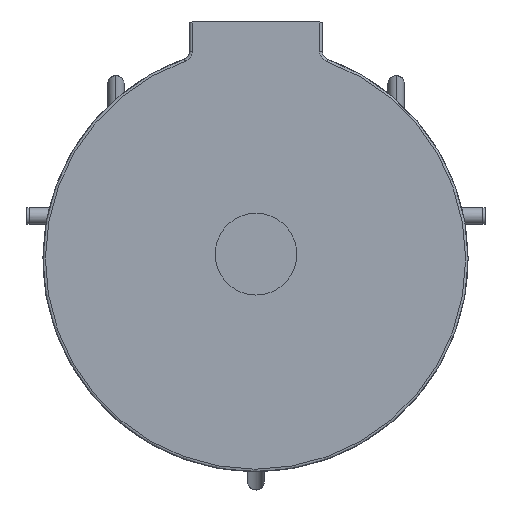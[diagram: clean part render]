
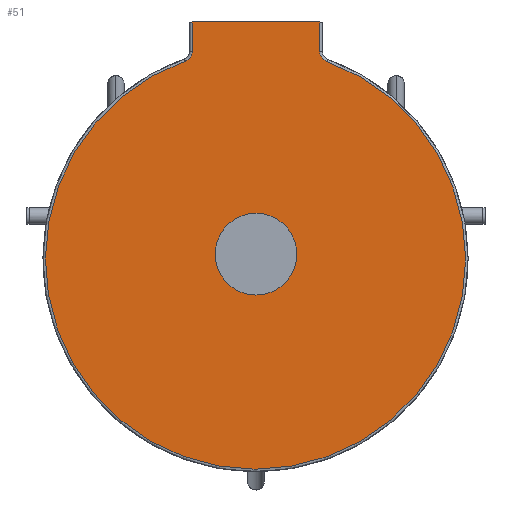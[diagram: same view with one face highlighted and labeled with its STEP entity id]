
A CAD part, top view. The second image highlights one B-rep face of the part: STEP entity #51.
In plain terms, the highlighted planar face has unit normal (0, 0, 1).
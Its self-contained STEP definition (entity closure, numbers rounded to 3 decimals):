
#41=FACE_BOUND('',#235,.T.);
#51=ADVANCED_FACE('',(#142,#41),#1388,.T.);
#142=FACE_OUTER_BOUND('',#234,.T.);
#234=EDGE_LOOP('',(#355,#356,#357,#358,#359,#360));
#235=EDGE_LOOP('',(#361,#362));
#355=ORIENTED_EDGE('',*,*,#740,.T.);
#356=ORIENTED_EDGE('',*,*,#746,.T.);
#357=ORIENTED_EDGE('',*,*,#732,.T.);
#358=ORIENTED_EDGE('',*,*,#762,.T.);
#359=ORIENTED_EDGE('',*,*,#753,.T.);
#360=ORIENTED_EDGE('',*,*,#759,.T.);
#361=ORIENTED_EDGE('',*,*,#757,.T.);
#362=ORIENTED_EDGE('',*,*,#767,.T.);
#732=EDGE_CURVE('',#1245,#1247,#994,.T.);
#740=EDGE_CURVE('',#1251,#1249,#996,.T.);
#746=EDGE_CURVE('',#1249,#1245,#1002,.T.);
#753=EDGE_CURVE('',#1241,#1240,#1106,.T.);
#757=EDGE_CURVE('',#1243,#1252,#1110,.T.);
#759=EDGE_CURVE('',#1240,#1251,#1111,.T.);
#762=EDGE_CURVE('',#1247,#1241,#1114,.T.);
#767=EDGE_CURVE('',#1252,#1243,#1118,.T.);
#994=B_SPLINE_CURVE_WITH_KNOTS('',1,(#1988,#1989),.UNSPECIFIED.,.F.,.F.,
(2,2),(0.,35.587),.UNSPECIFIED.);
#996=B_SPLINE_CURVE_WITH_KNOTS('',1,(#2007,#2008),.UNSPECIFIED.,.F.,.F.,
(2,2),(0.,36.01),.UNSPECIFIED.);
#1002=B_SPLINE_CURVE_WITH_KNOTS('',1,(#2019,#2020),.UNSPECIFIED.,.F.,.F.,
(2,2),(1666.469,1822.469),.UNSPECIFIED.);
#1106=TRIMMED_CURVE($,#1173,(#2038),(#2039),.T.,.CARTESIAN.);
#1110=TRIMMED_CURVE($,#1177,(#2050),(#2051),.T.,.CARTESIAN.);
#1111=TRIMMED_CURVE($,#1178,(#2055),(#2056),.T.,.CARTESIAN.);
#1114=TRIMMED_CURVE($,#1181,(#2064),(#2065),.T.,.CARTESIAN.);
#1118=TRIMMED_CURVE($,#1185,(#2078),(#2079),.T.,.CARTESIAN.);
#1173=CIRCLE('',#1568,257.);
#1177=CIRCLE('',#1572,50.);
#1178=CIRCLE('',#1573,13.);
#1181=CIRCLE('',#1576,13.);
#1185=CIRCLE('',#1580,50.);
#1240=VERTEX_POINT('',#1971);
#1241=VERTEX_POINT('',#1972);
#1243=VERTEX_POINT('',#1974);
#1245=VERTEX_POINT('',#1976);
#1247=VERTEX_POINT('',#1978);
#1249=VERTEX_POINT('',#1980);
#1251=VERTEX_POINT('',#1982);
#1252=VERTEX_POINT('',#1983);
#1388=PLANE('',#1553);
#1553=AXIS2_PLACEMENT_3D('',#1911,#1698,$);
#1568=AXIS2_PLACEMENT_3D($,#2037,#1721,#1722);
#1572=AXIS2_PLACEMENT_3D($,#2049,#1729,#1730);
#1573=AXIS2_PLACEMENT_3D($,#2054,#1731,#1732);
#1576=AXIS2_PLACEMENT_3D($,#2063,#1737,#1738);
#1580=AXIS2_PLACEMENT_3D($,#2077,#1745,#1746);
#1698=DIRECTION('',(0.,0.,1.));
#1721=DIRECTION('',(0.,0.,1.));
#1722=DIRECTION('',(-0.335,0.942,0.));
#1729=DIRECTION('',(0.,0.,-1.));
#1730=DIRECTION('',(1.,0.,0.));
#1731=DIRECTION('',(0.,0.,-1.));
#1732=DIRECTION('',(-0.339,-0.941,0.));
#1737=DIRECTION('',(0.,0.,-1.));
#1738=DIRECTION('',(1.,0.,0.));
#1745=DIRECTION('',(0.,0.,-1.));
#1746=DIRECTION('',(-1.,0.,0.));
#1911=CARTESIAN_POINT('',(-158.961,-426.514,751.772));
#1971=CARTESIAN_POINT('',(253.22,143.997,751.772));
#1972=CARTESIAN_POINT('',(79.983,144.4,751.772));
#1974=CARTESIAN_POINT('',(216.63,-91.707,751.772));
#1976=CARTESIAN_POINT('',(88.63,192.236,751.772));
#1978=CARTESIAN_POINT('',(88.63,156.649,751.772));
#1980=CARTESIAN_POINT('',(244.63,192.236,751.772));
#1982=CARTESIAN_POINT('',(244.63,156.226,751.772));
#1983=CARTESIAN_POINT('',(116.63,-91.707,751.772));
#1988=CARTESIAN_POINT('',(88.63,192.236,751.772));
#1989=CARTESIAN_POINT('',(88.63,156.649,751.772));
#2007=CARTESIAN_POINT('',(244.63,156.226,751.772));
#2008=CARTESIAN_POINT('',(244.63,192.236,751.772));
#2019=CARTESIAN_POINT('',(244.63,192.236,751.772));
#2020=CARTESIAN_POINT('',(88.63,192.236,751.772));
#2037=CARTESIAN_POINT('',(166.039,-97.764,751.772));
#2038=CARTESIAN_POINT('',(79.983,144.4,751.772));
#2039=CARTESIAN_POINT('',(253.22,143.997,751.772));
#2049=CARTESIAN_POINT('',(166.63,-91.707,751.772));
#2050=CARTESIAN_POINT('',(216.63,-91.707,751.772));
#2051=CARTESIAN_POINT('',(116.63,-91.707,751.772));
#2054=CARTESIAN_POINT('',(257.63,156.226,751.772));
#2055=CARTESIAN_POINT('',(253.22,143.997,751.772));
#2056=CARTESIAN_POINT('',(244.63,156.226,751.772));
#2063=CARTESIAN_POINT('',(75.63,156.649,751.772));
#2064=CARTESIAN_POINT('',(88.63,156.649,751.772));
#2065=CARTESIAN_POINT('',(79.983,144.4,751.772));
#2077=CARTESIAN_POINT('',(166.63,-91.707,751.772));
#2078=CARTESIAN_POINT('',(116.63,-91.707,751.772));
#2079=CARTESIAN_POINT('',(216.63,-91.707,751.772));
